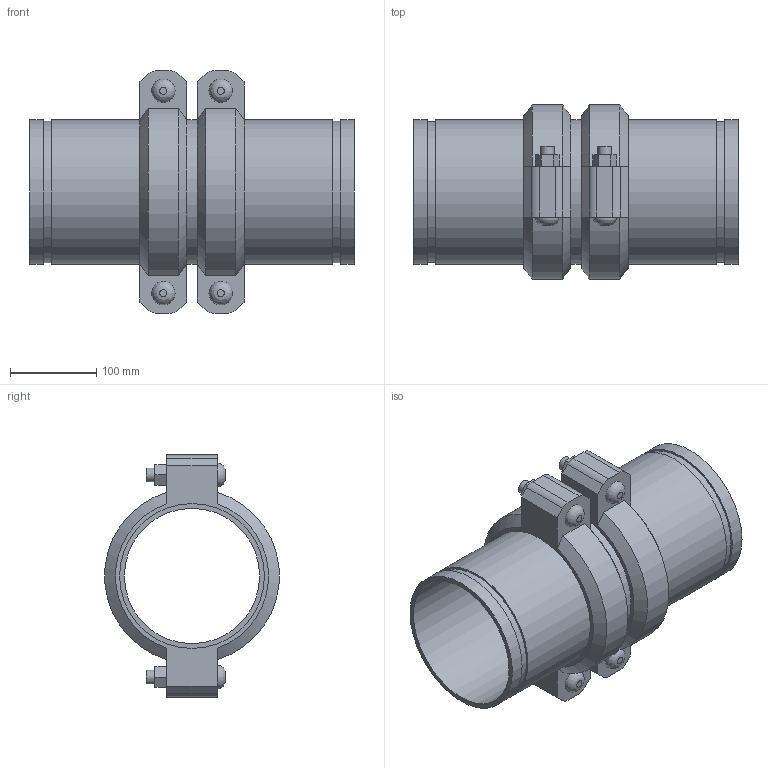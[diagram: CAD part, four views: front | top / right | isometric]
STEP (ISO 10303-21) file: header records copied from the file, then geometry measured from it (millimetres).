
FILE_DESCRIPTION(/* description */ ('VIC SS EXPANSION JOINT 2 COUPLINGS EXPANDED STYLE 155P (OGS) (POTABLE WATER) ','CAx-IF Rec.Pracs.---Representation and Presentation of Product Manufacturing Information (PMI)---4.0---2014-10-13'),/* implementation_level */ '2;1');
FILE_NAME(/* name */ 'C:\Users\kkamble\AppData\Roaming\Autodesk\ApplicationPlugins\Victaulic.Temp\A661\Victaulic_SS_Expansion Joint_Expanded_2 Couplings_Style 155P (OGS)-Potable Water_2 Coup_Expd_6 (150).stp',/* time_stamp */ '2021-07-16T16:48:59+05:00',/* author */ ('kkamble'),/* organization */ ('Victaulic'),/* preprocessor_version */ 'ST-DEVELOPER v17.2',/* originating_system */ 'Autodesk Inventor 2019',/* authorisation */ '');
FILE_SCHEMA (('AP242_MANAGED_MODEL_BASED_3D_ENGINEERING_MIM_LF { 1 0 10303 442 1 1 4 }'));
Length unit declared in the file: inch
Products named in the file (4): 155P-06.0; Nipple-06.0; Nipple-06.0_1; 075-06.0
Assembly tree (5 placements, depth 2):
  155P-06.0
    Nipple-06.0  x2
    Nipple-06.0_1
    075-06.0  x2
Bounding box: 377.19 x 202.46 x 281.18 mm (x, y, z)
Volume: 2499445.8 mm3; surface area: 635063.8 mm2
Topology: 5 solids, 9 shells, 150 faces, 356 edges, 252 vertices
Faces by surface type: plane 90, cylinder 48, cone 8, bspline 4
Full cylindrical faces by diameter (mm): 15.875 x8, 17.424 x4, 157.15 x3, 161.925 x2, 163.957 x6, 168.275 x13
Entity records: 2744 total; most frequent: CARTESIAN_POINT 489, DIRECTION 453, ORIENTED_EDGE 386, EDGE_CURVE 193, AXIS2_PLACEMENT_3D 180, VERTEX_POINT 138, EDGE_LOOP 107, LINE 93
